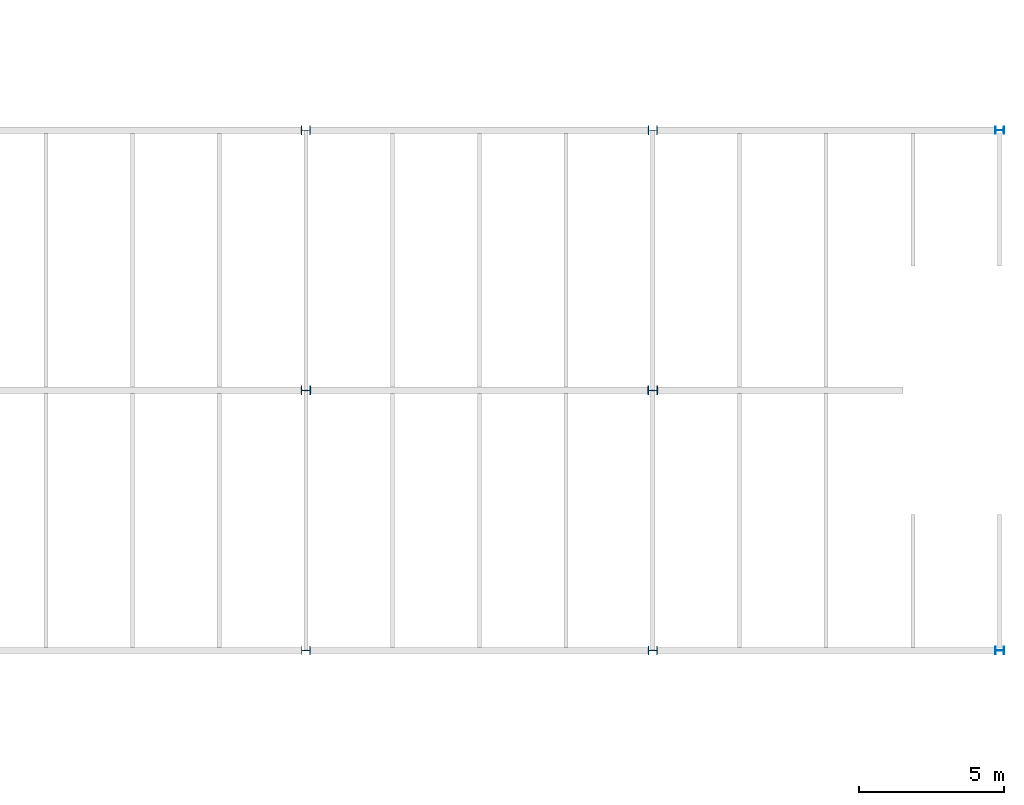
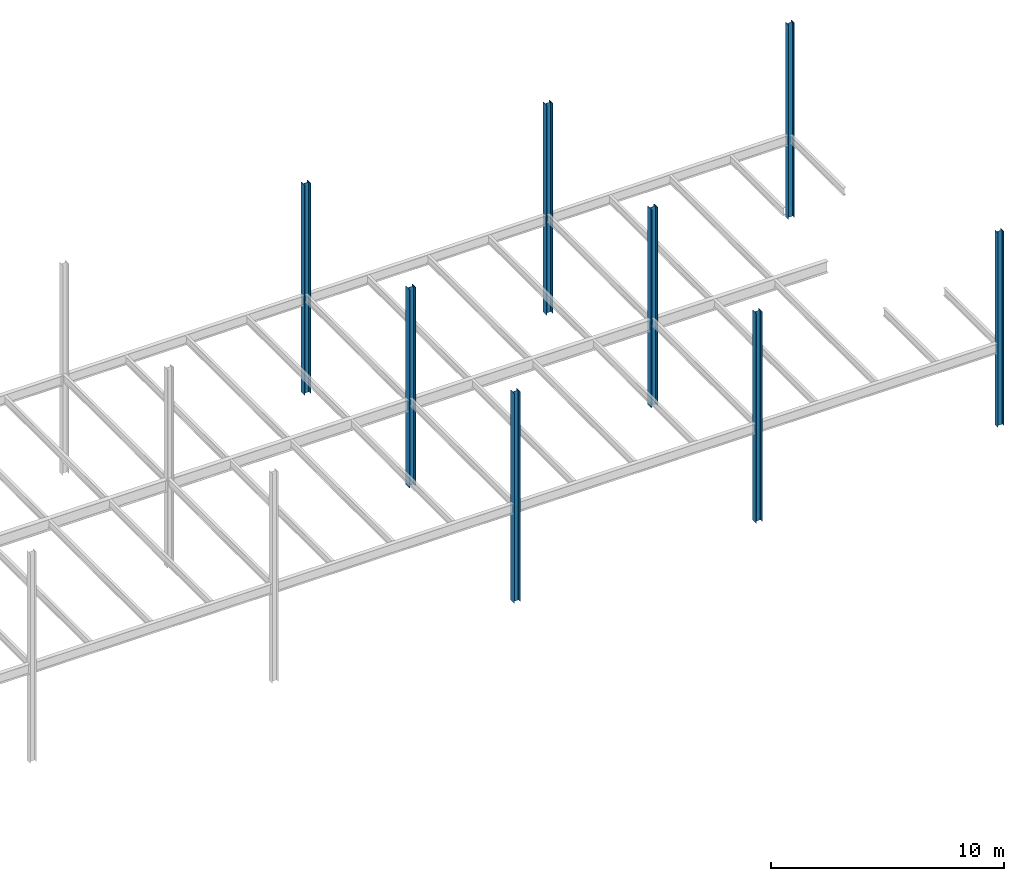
# One storey, part 9 of 19: 8 columns.
"""IFC2X3 building model written with IfcOpenShell, lengths in millimetres."""

from ifc_helpers import new_model, si_unit, origin, place, context, project, spatial, faceted_brep, material, element, save


model = new_model("IFC2X3")

# Units and contexts
context_of_model = context(None, 3, precision=1e-05, world=origin())
ifc_project = project(units=[si_unit("LENGTHUNIT", "METRE", prefix="MILLI")], contexts=[context_of_model])

# Building, storey
building = spatial("IfcBuilding", under=ifc_project, Name="Building", CompositionType="ELEMENT")
storey = spatial("IfcBuildingStorey", under=building, Name="FL2-FRM", CompositionType="ELEMENT")

# Columns
ifc_material_1 = material(Name="A992")
column_1_placement = place(None, origin())
element("IfcColumn", 1, at=column_1_placement, inside=storey, material=ifc_material_1, Name="Column332", context=context_of_model, shape_type="Brep", body=[
    faceted_brep([(84153.0, 8873.0, 0.0), (84153.0, 9127.0, 0.0), (84153.0, 9127.0, 10194.2), (84153.0, 8873.0, 10194.2), (84138.4, 9127.0, 0.0), (84138.4, 9127.0, 10194.2), (84138.4, 9019.6, 0.0), (84138.4, 9019.6, 10194.2), (84137.9, 9015.67, 0.0), (84137.9, 9015.67, 10194.2), (84136.4, 9012.0, 0.0), (84136.4, 9012.0, 10194.2), (84133.9, 9008.85, 0.0), (84133.9, 9008.85, 10194.2), (84130.8, 9006.44, 0.0), (84130.8, 9006.44, 10194.2), (84127.1, 9004.92, 0.0), (84127.1, 9004.92, 10194.2), (84123.2, 9004.4, 0.0), (84123.2, 9004.4, 10194.2), (83876.8, 9004.4, 0.0), (83876.8, 9004.4, 10194.2), (83872.9, 9004.92, 0.0), (83872.9, 9004.92, 10194.2), (83869.2, 9006.44, 0.0), (83869.2, 9006.44, 10194.2), (83866.1, 9008.85, 0.0), (83866.1, 9008.85, 10194.2), (83863.6, 9012.0, 0.0), (83863.6, 9012.0, 10194.2), (83862.1, 9015.67, 0.0), (83862.1, 9015.67, 10194.2), (83861.6, 9019.6, 0.0), (83861.6, 9019.6, 10194.2), (83861.6, 9127.0, 0.0), (83861.6, 9127.0, 10194.2), (83847.0, 9127.0, 0.0), (83847.0, 9127.0, 10194.2), (83847.0, 8873.0, 0.0), (83847.0, 8873.0, 10194.2), (83861.6, 8873.0, 0.0), (83861.6, 8873.0, 10194.2), (83861.6, 8980.4, 0.0), (83861.6, 8980.4, 10194.2), (83862.1, 8984.33, 0.0), (83862.1, 8984.33, 10194.2), (83863.6, 8988.0, 0.0), (83863.6, 8988.0, 10194.2), (83866.1, 8991.15, 0.0), (83866.1, 8991.15, 10194.2), (83869.2, 8993.56, 0.0), (83869.2, 8993.56, 10194.2), (83872.9, 8995.08, 0.0), (83872.9, 8995.08, 10194.2), (83876.8, 8995.6, 0.0), (83876.8, 8995.6, 10194.2), (84123.2, 8995.6, 0.0), (84123.2, 8995.6, 10194.2), (84127.1, 8995.08, 0.0), (84127.1, 8995.08, 10194.2), (84130.8, 8993.56, 0.0), (84130.8, 8993.56, 10194.2), (84133.9, 8991.15, 0.0), (84133.9, 8991.15, 10194.2), (84136.4, 8988.0, 0.0), (84136.4, 8988.0, 10194.2), (84137.9, 8984.33, 0.0), (84137.9, 8984.33, 10194.2), (84138.4, 8980.4, 0.0), (84138.4, 8980.4, 10194.2), (84138.4, 8873.0, 0.0), (84138.4, 8873.0, 10194.2)], [[[0, 1, 2, 3]], [[1, 4, 5, 2]], [[4, 6, 7, 5]], [[6, 8, 9, 7]], [[8, 10, 11, 9]], [[10, 12, 13, 11]], [[12, 14, 15, 13]], [[14, 16, 17, 15]], [[16, 18, 19, 17]], [[18, 20, 21, 19]], [[20, 22, 23, 21]], [[22, 24, 25, 23]], [[24, 26, 27, 25]], [[26, 28, 29, 27]], [[28, 30, 31, 29]], [[30, 32, 33, 31]], [[32, 34, 35, 33]], [[34, 36, 37, 35]], [[36, 38, 39, 37]], [[38, 40, 41, 39]], [[40, 42, 43, 41]], [[42, 44, 45, 43]], [[44, 46, 47, 45]], [[46, 48, 49, 47]], [[48, 50, 51, 49]], [[50, 52, 53, 51]], [[52, 54, 55, 53]], [[54, 56, 57, 55]], [[56, 58, 59, 57]], [[58, 60, 61, 59]], [[60, 62, 63, 61]], [[62, 64, 65, 63]], [[64, 66, 67, 65]], [[66, 68, 69, 67]], [[68, 70, 71, 69]], [[70, 0, 3, 71]], [[0, 70, 68, 66, 64, 62, 60, 58, 56, 54, 52, 50, 48, 46, 44, 42, 40, 38, 36, 34, 32, 30, 28, 26, 24, 22, 20, 18, 16, 14, 12, 10, 8, 6, 4, 1]], [[3, 2, 5, 7, 9, 11, 13, 15, 17, 19, 21, 23, 25, 27, 29, 31, 33, 35, 37, 39, 41, 43, 45, 47, 49, 51, 53, 55, 57, 59, 61, 63, 65, 67, 69, 71]]]),
])
ifc_material_2 = material(Name="A992")
column_2_placement = place(None, origin())
element("IfcColumn", 2, at=column_2_placement, inside=storey, material=ifc_material_2, Name="Column634", context=context_of_model, shape_type="Brep", body=[
    faceted_brep([(72157.0, 26846.5, -812.8), (72157.0, 27153.5, -812.8), (72157.0, 27153.5, 10194.2), (72157.0, 26846.5, 10194.2), (72138.3, 27153.5, -812.8), (72138.3, 27153.5, 10194.2), (72138.3, 27021.1, -812.8), (72138.3, 27021.1, 10194.2), (72137.8, 27017.2, -812.8), (72137.8, 27017.2, 10194.2), (72136.3, 27013.5, -812.8), (72136.3, 27013.5, 10194.2), (72133.8, 27010.4, -812.8), (72133.8, 27010.4, 10194.2), (72130.7, 27008.0, -812.8), (72130.7, 27008.0, 10194.2), (72127.0, 27006.5, -812.8), (72127.0, 27006.5, 10194.2), (72123.1, 27005.9, -812.8), (72123.1, 27005.9, 10194.2), (71876.9, 27005.9, -812.8), (71876.9, 27005.9, 10194.2), (71873.0, 27006.5, -812.8), (71873.0, 27006.5, 10194.2), (71869.3, 27008.0, -812.8), (71869.3, 27008.0, 10194.2), (71866.2, 27010.4, -812.8), (71866.2, 27010.4, 10194.2), (71863.7, 27013.5, -812.8), (71863.7, 27013.5, 10194.2), (71862.2, 27017.2, -812.8), (71862.2, 27017.2, 10194.2), (71861.7, 27021.1, -812.8), (71861.7, 27021.1, 10194.2), (71861.7, 27153.5, -812.8), (71861.7, 27153.5, 10194.2), (71843.0, 27153.5, -812.8), (71843.0, 27153.5, 10194.2), (71843.0, 26846.5, -812.8), (71843.0, 26846.5, 10194.2), (71861.7, 26846.5, -812.8), (71861.7, 26846.5, 10194.2), (71861.7, 26978.9, -812.8), (71861.7, 26978.9, 10194.2), (71862.2, 26982.8, -812.8), (71862.2, 26982.8, 10194.2), (71863.7, 26986.5, -812.8), (71863.7, 26986.5, 10194.2), (71866.2, 26989.6, -812.8), (71866.2, 26989.6, 10194.2), (71869.3, 26992.0, -812.8), (71869.3, 26992.0, 10194.2), (71873.0, 26993.5, -812.8), (71873.0, 26993.5, 10194.2), (71876.9, 26994.1, -812.8), (71876.9, 26994.1, 10194.2), (72123.1, 26994.1, -812.8), (72123.1, 26994.1, 10194.2), (72127.0, 26993.5, -812.8), (72127.0, 26993.5, 10194.2), (72130.7, 26992.0, -812.8), (72130.7, 26992.0, 10194.2), (72133.8, 26989.6, -812.8), (72133.8, 26989.6, 10194.2), (72136.3, 26986.5, -812.8), (72136.3, 26986.5, 10194.2), (72137.8, 26982.8, -812.8), (72137.8, 26982.8, 10194.2), (72138.3, 26978.9, -812.8), (72138.3, 26978.9, 10194.2), (72138.3, 26846.5, -812.8), (72138.3, 26846.5, 10194.2)], [[[0, 1, 2, 3]], [[1, 4, 5, 2]], [[4, 6, 7, 5]], [[6, 8, 9, 7]], [[8, 10, 11, 9]], [[10, 12, 13, 11]], [[12, 14, 15, 13]], [[14, 16, 17, 15]], [[16, 18, 19, 17]], [[18, 20, 21, 19]], [[20, 22, 23, 21]], [[22, 24, 25, 23]], [[24, 26, 27, 25]], [[26, 28, 29, 27]], [[28, 30, 31, 29]], [[30, 32, 33, 31]], [[32, 34, 35, 33]], [[34, 36, 37, 35]], [[36, 38, 39, 37]], [[38, 40, 41, 39]], [[40, 42, 43, 41]], [[42, 44, 45, 43]], [[44, 46, 47, 45]], [[46, 48, 49, 47]], [[48, 50, 51, 49]], [[50, 52, 53, 51]], [[52, 54, 55, 53]], [[54, 56, 57, 55]], [[56, 58, 59, 57]], [[58, 60, 61, 59]], [[60, 62, 63, 61]], [[62, 64, 65, 63]], [[64, 66, 67, 65]], [[66, 68, 69, 67]], [[68, 70, 71, 69]], [[70, 0, 3, 71]], [[0, 70, 68, 66, 64, 62, 60, 58, 56, 54, 52, 50, 48, 46, 44, 42, 40, 38, 36, 34, 32, 30, 28, 26, 24, 22, 20, 18, 16, 14, 12, 10, 8, 6, 4, 1]], [[3, 2, 5, 7, 9, 11, 13, 15, 17, 19, 21, 23, 25, 27, 29, 31, 33, 35, 37, 39, 41, 43, 45, 47, 49, 51, 53, 55, 57, 59, 61, 63, 65, 67, 69, 71]]]),
])
ifc_material_3 = material(Name="A992")
column_3_placement = place(None, origin())
element("IfcColumn", 3, at=column_3_placement, inside=storey, material=ifc_material_3, Name="Column635", context=context_of_model, shape_type="Brep", body=[
    faceted_brep([(60157.0, 26846.5, -812.8), (60157.0, 27153.5, -812.8), (60157.0, 27153.5, 10194.2), (60157.0, 26846.5, 10194.2), (60138.3, 27153.5, -812.8), (60138.3, 27153.5, 10194.2), (60138.3, 27021.1, -812.8), (60138.3, 27021.1, 10194.2), (60137.8, 27017.2, -812.8), (60137.8, 27017.2, 10194.2), (60136.3, 27013.5, -812.8), (60136.3, 27013.5, 10194.2), (60133.8, 27010.4, -812.8), (60133.8, 27010.4, 10194.2), (60130.7, 27008.0, -812.8), (60130.7, 27008.0, 10194.2), (60127.0, 27006.5, -812.8), (60127.0, 27006.5, 10194.2), (60123.1, 27005.9, -812.8), (60123.1, 27005.9, 10194.2), (59876.9, 27005.9, -812.8), (59876.9, 27005.9, 10194.2), (59873.0, 27006.5, -812.8), (59873.0, 27006.5, 10194.2), (59869.3, 27008.0, -812.8), (59869.3, 27008.0, 10194.2), (59866.2, 27010.4, -812.8), (59866.2, 27010.4, 10194.2), (59863.7, 27013.5, -812.8), (59863.7, 27013.5, 10194.2), (59862.2, 27017.2, -812.8), (59862.2, 27017.2, 10194.2), (59861.7, 27021.1, -812.8), (59861.7, 27021.1, 10194.2), (59861.7, 27153.5, -812.8), (59861.7, 27153.5, 10194.2), (59843.0, 27153.5, -812.8), (59843.0, 27153.5, 10194.2), (59843.0, 26846.5, -812.8), (59843.0, 26846.5, 10194.2), (59861.7, 26846.5, -812.8), (59861.7, 26846.5, 10194.2), (59861.7, 26978.9, -812.8), (59861.7, 26978.9, 10194.2), (59862.2, 26982.8, -812.8), (59862.2, 26982.8, 10194.2), (59863.7, 26986.5, -812.8), (59863.7, 26986.5, 10194.2), (59866.2, 26989.6, -812.8), (59866.2, 26989.6, 10194.2), (59869.3, 26992.0, -812.8), (59869.3, 26992.0, 10194.2), (59873.0, 26993.5, -812.8), (59873.0, 26993.5, 10194.2), (59876.9, 26994.1, -812.8), (59876.9, 26994.1, 10194.2), (60123.1, 26994.1, -812.8), (60123.1, 26994.1, 10194.2), (60127.0, 26993.5, -812.8), (60127.0, 26993.5, 10194.2), (60130.7, 26992.0, -812.8), (60130.7, 26992.0, 10194.2), (60133.8, 26989.6, -812.8), (60133.8, 26989.6, 10194.2), (60136.3, 26986.5, -812.8), (60136.3, 26986.5, 10194.2), (60137.8, 26982.8, -812.8), (60137.8, 26982.8, 10194.2), (60138.3, 26978.9, -812.8), (60138.3, 26978.9, 10194.2), (60138.3, 26846.5, -812.8), (60138.3, 26846.5, 10194.2)], [[[0, 1, 2, 3]], [[1, 4, 5, 2]], [[4, 6, 7, 5]], [[6, 8, 9, 7]], [[8, 10, 11, 9]], [[10, 12, 13, 11]], [[12, 14, 15, 13]], [[14, 16, 17, 15]], [[16, 18, 19, 17]], [[18, 20, 21, 19]], [[20, 22, 23, 21]], [[22, 24, 25, 23]], [[24, 26, 27, 25]], [[26, 28, 29, 27]], [[28, 30, 31, 29]], [[30, 32, 33, 31]], [[32, 34, 35, 33]], [[34, 36, 37, 35]], [[36, 38, 39, 37]], [[38, 40, 41, 39]], [[40, 42, 43, 41]], [[42, 44, 45, 43]], [[44, 46, 47, 45]], [[46, 48, 49, 47]], [[48, 50, 51, 49]], [[50, 52, 53, 51]], [[52, 54, 55, 53]], [[54, 56, 57, 55]], [[56, 58, 59, 57]], [[58, 60, 61, 59]], [[60, 62, 63, 61]], [[62, 64, 65, 63]], [[64, 66, 67, 65]], [[66, 68, 69, 67]], [[68, 70, 71, 69]], [[70, 0, 3, 71]], [[0, 70, 68, 66, 64, 62, 60, 58, 56, 54, 52, 50, 48, 46, 44, 42, 40, 38, 36, 34, 32, 30, 28, 26, 24, 22, 20, 18, 16, 14, 12, 10, 8, 6, 4, 1]], [[3, 2, 5, 7, 9, 11, 13, 15, 17, 19, 21, 23, 25, 27, 29, 31, 33, 35, 37, 39, 41, 43, 45, 47, 49, 51, 53, 55, 57, 59, 61, 63, 65, 67, 69, 71]]]),
])
ifc_material_4 = material(Name="A992")
column_4_placement = place(None, origin())
element("IfcColumn", 4, at=column_4_placement, inside=storey, material=ifc_material_4, Name="Column642", context=context_of_model, shape_type="Brep", body=[
    faceted_brep([(60166.5, 17843.5, -203.2), (60166.5, 18156.5, -203.2), (60166.5, 18156.5, 10194.2), (60166.5, 17843.5, 10194.2), (60138.4, 18156.5, -203.2), (60138.4, 18156.5, 10194.2), (60138.4, 18024.2, -203.2), (60138.4, 18024.2, 10194.2), (60137.9, 18020.3, -203.2), (60137.9, 18020.3, 10194.2), (60136.4, 18016.6, -203.2), (60136.4, 18016.6, 10194.2), (60133.9, 18013.5, -203.2), (60133.9, 18013.5, 10194.2), (60130.8, 18011.0, -203.2), (60130.8, 18011.0, 10194.2), (60127.1, 18009.5, -203.2), (60127.1, 18009.5, 10194.2), (60123.2, 18009.0, -203.2), (60123.2, 18009.0, 10194.2), (59876.8, 18009.0, -203.2), (59876.8, 18009.0, 10194.2), (59872.9, 18009.5, -203.2), (59872.9, 18009.5, 10194.2), (59869.2, 18011.0, -203.2), (59869.2, 18011.0, 10194.2), (59866.1, 18013.5, -203.2), (59866.1, 18013.5, 10194.2), (59863.6, 18016.6, -203.2), (59863.6, 18016.6, 10194.2), (59862.1, 18020.3, -203.2), (59862.1, 18020.3, 10194.2), (59861.6, 18024.2, -203.2), (59861.6, 18024.2, 10194.2), (59861.6, 18156.5, -203.2), (59861.6, 18156.5, 10194.2), (59833.5, 18156.5, -203.2), (59833.5, 18156.5, 10194.2), (59833.5, 17843.5, -203.2), (59833.5, 17843.5, 10194.2), (59861.6, 17843.5, -203.2), (59861.6, 17843.5, 10194.2), (59861.6, 17975.8, -203.2), (59861.6, 17975.8, 10194.2), (59862.1, 17979.7, -203.2), (59862.1, 17979.7, 10194.2), (59863.6, 17983.4, -203.2), (59863.6, 17983.4, 10194.2), (59866.1, 17986.5, -203.2), (59866.1, 17986.5, 10194.2), (59869.2, 17989.0, -203.2), (59869.2, 17989.0, 10194.2), (59872.9, 17990.5, -203.2), (59872.9, 17990.5, 10194.2), (59876.8, 17991.0, -203.2), (59876.8, 17991.0, 10194.2), (60123.2, 17991.0, -203.2), (60123.2, 17991.0, 10194.2), (60127.1, 17990.5, -203.2), (60127.1, 17990.5, 10194.2), (60130.8, 17989.0, -203.2), (60130.8, 17989.0, 10194.2), (60133.9, 17986.5, -203.2), (60133.9, 17986.5, 10194.2), (60136.4, 17983.4, -203.2), (60136.4, 17983.4, 10194.2), (60137.9, 17979.7, -203.2), (60137.9, 17979.7, 10194.2), (60138.4, 17975.8, -203.2), (60138.4, 17975.8, 10194.2), (60138.4, 17843.5, -203.2), (60138.4, 17843.5, 10194.2)], [[[0, 1, 2, 3]], [[1, 4, 5, 2]], [[4, 6, 7, 5]], [[6, 8, 9, 7]], [[8, 10, 11, 9]], [[10, 12, 13, 11]], [[12, 14, 15, 13]], [[14, 16, 17, 15]], [[16, 18, 19, 17]], [[18, 20, 21, 19]], [[20, 22, 23, 21]], [[22, 24, 25, 23]], [[24, 26, 27, 25]], [[26, 28, 29, 27]], [[28, 30, 31, 29]], [[30, 32, 33, 31]], [[32, 34, 35, 33]], [[34, 36, 37, 35]], [[36, 38, 39, 37]], [[38, 40, 41, 39]], [[40, 42, 43, 41]], [[42, 44, 45, 43]], [[44, 46, 47, 45]], [[46, 48, 49, 47]], [[48, 50, 51, 49]], [[50, 52, 53, 51]], [[52, 54, 55, 53]], [[54, 56, 57, 55]], [[56, 58, 59, 57]], [[58, 60, 61, 59]], [[60, 62, 63, 61]], [[62, 64, 65, 63]], [[64, 66, 67, 65]], [[66, 68, 69, 67]], [[68, 70, 71, 69]], [[70, 0, 3, 71]], [[0, 70, 68, 66, 64, 62, 60, 58, 56, 54, 52, 50, 48, 46, 44, 42, 40, 38, 36, 34, 32, 30, 28, 26, 24, 22, 20, 18, 16, 14, 12, 10, 8, 6, 4, 1]], [[3, 2, 5, 7, 9, 11, 13, 15, 17, 19, 21, 23, 25, 27, 29, 31, 33, 35, 37, 39, 41, 43, 45, 47, 49, 51, 53, 55, 57, 59, 61, 63, 65, 67, 69, 71]]]),
])
ifc_material_5 = material(Name="A992")
column_5_placement = place(None, origin())
element("IfcColumn", 5, at=column_5_placement, inside=storey, material=ifc_material_5, Name="Column643", context=context_of_model, shape_type="Brep", body=[
    faceted_brep([(72166.5, 17843.5, -203.2), (72166.5, 18156.5, -203.2), (72166.5, 18156.5, 10194.2), (72166.5, 17843.5, 10194.2), (72138.4, 18156.5, -203.2), (72138.4, 18156.5, 10194.2), (72138.4, 18024.2, -203.2), (72138.4, 18024.2, 10194.2), (72137.9, 18020.3, -203.2), (72137.9, 18020.3, 10194.2), (72136.4, 18016.6, -203.2), (72136.4, 18016.6, 10194.2), (72133.9, 18013.5, -203.2), (72133.9, 18013.5, 10194.2), (72130.8, 18011.0, -203.2), (72130.8, 18011.0, 10194.2), (72127.1, 18009.5, -203.2), (72127.1, 18009.5, 10194.2), (72123.2, 18009.0, -203.2), (72123.2, 18009.0, 10194.2), (71876.8, 18009.0, -203.2), (71876.8, 18009.0, 10194.2), (71872.9, 18009.5, -203.2), (71872.9, 18009.5, 10194.2), (71869.2, 18011.0, -203.2), (71869.2, 18011.0, 10194.2), (71866.1, 18013.5, -203.2), (71866.1, 18013.5, 10194.2), (71863.6, 18016.6, -203.2), (71863.6, 18016.6, 10194.2), (71862.1, 18020.3, -203.2), (71862.1, 18020.3, 10194.2), (71861.6, 18024.2, -203.2), (71861.6, 18024.2, 10194.2), (71861.6, 18156.5, -203.2), (71861.6, 18156.5, 10194.2), (71833.5, 18156.5, -203.2), (71833.5, 18156.5, 10194.2), (71833.5, 17843.5, -203.2), (71833.5, 17843.5, 10194.2), (71861.6, 17843.5, -203.2), (71861.6, 17843.5, 10194.2), (71861.6, 17975.8, -203.2), (71861.6, 17975.8, 10194.2), (71862.1, 17979.7, -203.2), (71862.1, 17979.7, 10194.2), (71863.6, 17983.4, -203.2), (71863.6, 17983.4, 10194.2), (71866.1, 17986.5, -203.2), (71866.1, 17986.5, 10194.2), (71869.2, 17989.0, -203.2), (71869.2, 17989.0, 10194.2), (71872.9, 17990.5, -203.2), (71872.9, 17990.5, 10194.2), (71876.8, 17991.0, -203.2), (71876.8, 17991.0, 10194.2), (72123.2, 17991.0, -203.2), (72123.2, 17991.0, 10194.2), (72127.1, 17990.5, -203.2), (72127.1, 17990.5, 10194.2), (72130.8, 17989.0, -203.2), (72130.8, 17989.0, 10194.2), (72133.9, 17986.5, -203.2), (72133.9, 17986.5, 10194.2), (72136.4, 17983.4, -203.2), (72136.4, 17983.4, 10194.2), (72137.9, 17979.7, -203.2), (72137.9, 17979.7, 10194.2), (72138.4, 17975.8, -203.2), (72138.4, 17975.8, 10194.2), (72138.4, 17843.5, -203.2), (72138.4, 17843.5, 10194.2)], [[[0, 1, 2, 3]], [[1, 4, 5, 2]], [[4, 6, 7, 5]], [[6, 8, 9, 7]], [[8, 10, 11, 9]], [[10, 12, 13, 11]], [[12, 14, 15, 13]], [[14, 16, 17, 15]], [[16, 18, 19, 17]], [[18, 20, 21, 19]], [[20, 22, 23, 21]], [[22, 24, 25, 23]], [[24, 26, 27, 25]], [[26, 28, 29, 27]], [[28, 30, 31, 29]], [[30, 32, 33, 31]], [[32, 34, 35, 33]], [[34, 36, 37, 35]], [[36, 38, 39, 37]], [[38, 40, 41, 39]], [[40, 42, 43, 41]], [[42, 44, 45, 43]], [[44, 46, 47, 45]], [[46, 48, 49, 47]], [[48, 50, 51, 49]], [[50, 52, 53, 51]], [[52, 54, 55, 53]], [[54, 56, 57, 55]], [[56, 58, 59, 57]], [[58, 60, 61, 59]], [[60, 62, 63, 61]], [[62, 64, 65, 63]], [[64, 66, 67, 65]], [[66, 68, 69, 67]], [[68, 70, 71, 69]], [[70, 0, 3, 71]], [[0, 70, 68, 66, 64, 62, 60, 58, 56, 54, 52, 50, 48, 46, 44, 42, 40, 38, 36, 34, 32, 30, 28, 26, 24, 22, 20, 18, 16, 14, 12, 10, 8, 6, 4, 1]], [[3, 2, 5, 7, 9, 11, 13, 15, 17, 19, 21, 23, 25, 27, 29, 31, 33, 35, 37, 39, 41, 43, 45, 47, 49, 51, 53, 55, 57, 59, 61, 63, 65, 67, 69, 71]]]),
])
ifc_material_6 = material(Name="A992")
column_6_placement = place(None, origin())
element("IfcColumn", 6, at=column_6_placement, inside=storey, material=ifc_material_6, Name="Column647", context=context_of_model, shape_type="Brep", body=[
    faceted_brep([(60154.0, 8847.5, -812.8), (60154.0, 9152.5, -812.8), (60154.0, 9152.5, 10194.2), (60154.0, 8847.5, 10194.2), (60138.6, 9152.5, -812.8), (60138.6, 9152.5, 10194.2), (60138.6, 9020.15, -812.8), (60138.6, 9020.15, 10194.2), (60138.1, 9016.22, -812.8), (60138.1, 9016.22, 10194.2), (60136.6, 9012.55, -812.8), (60136.6, 9012.55, 10194.2), (60134.1, 9009.4, -812.8), (60134.1, 9009.4, 10194.2), (60131.0, 9006.99, -812.8), (60131.0, 9006.99, 10194.2), (60127.3, 9005.47, -812.8), (60127.3, 9005.47, 10194.2), (60123.4, 9004.95, -812.8), (60123.4, 9004.95, 10194.2), (59876.6, 9004.95, -812.8), (59876.6, 9004.95, 10194.2), (59872.7, 9005.47, -812.8), (59872.7, 9005.47, 10194.2), (59869.0, 9006.99, -812.8), (59869.0, 9006.99, 10194.2), (59865.9, 9009.4, -812.8), (59865.9, 9009.4, 10194.2), (59863.4, 9012.55, -812.8), (59863.4, 9012.55, 10194.2), (59861.9, 9016.22, -812.8), (59861.9, 9016.22, 10194.2), (59861.4, 9020.15, -812.8), (59861.4, 9020.15, 10194.2), (59861.4, 9152.5, -812.8), (59861.4, 9152.5, 10194.2), (59846.0, 9152.5, -812.8), (59846.0, 9152.5, 10194.2), (59846.0, 8847.5, -812.8), (59846.0, 8847.5, 10194.2), (59861.4, 8847.5, -812.8), (59861.4, 8847.5, 10194.2), (59861.4, 8979.85, -812.8), (59861.4, 8979.85, 10194.2), (59861.9, 8983.78, -812.8), (59861.9, 8983.78, 10194.2), (59863.4, 8987.45, -812.8), (59863.4, 8987.45, 10194.2), (59865.9, 8990.6, -812.8), (59865.9, 8990.6, 10194.2), (59869.0, 8993.01, -812.8), (59869.0, 8993.01, 10194.2), (59872.7, 8994.53, -812.8), (59872.7, 8994.53, 10194.2), (59876.6, 8995.05, -812.8), (59876.6, 8995.05, 10194.2), (60123.4, 8995.05, -812.8), (60123.4, 8995.05, 10194.2), (60127.3, 8994.53, -812.8), (60127.3, 8994.53, 10194.2), (60131.0, 8993.01, -812.8), (60131.0, 8993.01, 10194.2), (60134.1, 8990.6, -812.8), (60134.1, 8990.6, 10194.2), (60136.6, 8987.45, -812.8), (60136.6, 8987.45, 10194.2), (60138.1, 8983.78, -812.8), (60138.1, 8983.78, 10194.2), (60138.6, 8979.85, -812.8), (60138.6, 8979.85, 10194.2), (60138.6, 8847.5, -812.8), (60138.6, 8847.5, 10194.2)], [[[0, 1, 2, 3]], [[1, 4, 5, 2]], [[4, 6, 7, 5]], [[6, 8, 9, 7]], [[8, 10, 11, 9]], [[10, 12, 13, 11]], [[12, 14, 15, 13]], [[14, 16, 17, 15]], [[16, 18, 19, 17]], [[18, 20, 21, 19]], [[20, 22, 23, 21]], [[22, 24, 25, 23]], [[24, 26, 27, 25]], [[26, 28, 29, 27]], [[28, 30, 31, 29]], [[30, 32, 33, 31]], [[32, 34, 35, 33]], [[34, 36, 37, 35]], [[36, 38, 39, 37]], [[38, 40, 41, 39]], [[40, 42, 43, 41]], [[42, 44, 45, 43]], [[44, 46, 47, 45]], [[46, 48, 49, 47]], [[48, 50, 51, 49]], [[50, 52, 53, 51]], [[52, 54, 55, 53]], [[54, 56, 57, 55]], [[56, 58, 59, 57]], [[58, 60, 61, 59]], [[60, 62, 63, 61]], [[62, 64, 65, 63]], [[64, 66, 67, 65]], [[66, 68, 69, 67]], [[68, 70, 71, 69]], [[70, 0, 3, 71]], [[0, 70, 68, 66, 64, 62, 60, 58, 56, 54, 52, 50, 48, 46, 44, 42, 40, 38, 36, 34, 32, 30, 28, 26, 24, 22, 20, 18, 16, 14, 12, 10, 8, 6, 4, 1]], [[3, 2, 5, 7, 9, 11, 13, 15, 17, 19, 21, 23, 25, 27, 29, 31, 33, 35, 37, 39, 41, 43, 45, 47, 49, 51, 53, 55, 57, 59, 61, 63, 65, 67, 69, 71]]]),
])
ifc_material_7 = material(Name="A992")
column_7_placement = place(None, origin())
element("IfcColumn", 7, at=column_7_placement, inside=storey, material=ifc_material_7, Name="Column648", context=context_of_model, shape_type="Brep", body=[
    faceted_brep([(72154.0, 8847.5, -812.8), (72154.0, 9152.5, -812.8), (72154.0, 9152.5, 10194.2), (72154.0, 8847.5, 10194.2), (72138.6, 9152.5, -812.8), (72138.6, 9152.5, 10194.2), (72138.6, 9020.15, -812.8), (72138.6, 9020.15, 10194.2), (72138.1, 9016.22, -812.8), (72138.1, 9016.22, 10194.2), (72136.6, 9012.55, -812.8), (72136.6, 9012.55, 10194.2), (72134.1, 9009.4, -812.8), (72134.1, 9009.4, 10194.2), (72131.0, 9006.99, -812.8), (72131.0, 9006.99, 10194.2), (72127.3, 9005.47, -812.8), (72127.3, 9005.47, 10194.2), (72123.4, 9004.95, -812.8), (72123.4, 9004.95, 10194.2), (71876.6, 9004.95, -812.8), (71876.6, 9004.95, 10194.2), (71872.7, 9005.47, -812.8), (71872.7, 9005.47, 10194.2), (71869.0, 9006.99, -812.8), (71869.0, 9006.99, 10194.2), (71865.9, 9009.4, -812.8), (71865.9, 9009.4, 10194.2), (71863.4, 9012.55, -812.8), (71863.4, 9012.55, 10194.2), (71861.9, 9016.22, -812.8), (71861.9, 9016.22, 10194.2), (71861.4, 9020.15, -812.8), (71861.4, 9020.15, 10194.2), (71861.4, 9152.5, -812.8), (71861.4, 9152.5, 10194.2), (71846.0, 9152.5, -812.8), (71846.0, 9152.5, 10194.2), (71846.0, 8847.5, -812.8), (71846.0, 8847.5, 10194.2), (71861.4, 8847.5, -812.8), (71861.4, 8847.5, 10194.2), (71861.4, 8979.85, -812.8), (71861.4, 8979.85, 10194.2), (71861.9, 8983.78, -812.8), (71861.9, 8983.78, 10194.2), (71863.4, 8987.45, -812.8), (71863.4, 8987.45, 10194.2), (71865.9, 8990.6, -812.8), (71865.9, 8990.6, 10194.2), (71869.0, 8993.01, -812.8), (71869.0, 8993.01, 10194.2), (71872.7, 8994.53, -812.8), (71872.7, 8994.53, 10194.2), (71876.6, 8995.05, -812.8), (71876.6, 8995.05, 10194.2), (72123.4, 8995.05, -812.8), (72123.4, 8995.05, 10194.2), (72127.3, 8994.53, -812.8), (72127.3, 8994.53, 10194.2), (72131.0, 8993.01, -812.8), (72131.0, 8993.01, 10194.2), (72134.1, 8990.6, -812.8), (72134.1, 8990.6, 10194.2), (72136.6, 8987.45, -812.8), (72136.6, 8987.45, 10194.2), (72138.1, 8983.78, -812.8), (72138.1, 8983.78, 10194.2), (72138.6, 8979.85, -812.8), (72138.6, 8979.85, 10194.2), (72138.6, 8847.5, -812.8), (72138.6, 8847.5, 10194.2)], [[[0, 1, 2, 3]], [[1, 4, 5, 2]], [[4, 6, 7, 5]], [[6, 8, 9, 7]], [[8, 10, 11, 9]], [[10, 12, 13, 11]], [[12, 14, 15, 13]], [[14, 16, 17, 15]], [[16, 18, 19, 17]], [[18, 20, 21, 19]], [[20, 22, 23, 21]], [[22, 24, 25, 23]], [[24, 26, 27, 25]], [[26, 28, 29, 27]], [[28, 30, 31, 29]], [[30, 32, 33, 31]], [[32, 34, 35, 33]], [[34, 36, 37, 35]], [[36, 38, 39, 37]], [[38, 40, 41, 39]], [[40, 42, 43, 41]], [[42, 44, 45, 43]], [[44, 46, 47, 45]], [[46, 48, 49, 47]], [[48, 50, 51, 49]], [[50, 52, 53, 51]], [[52, 54, 55, 53]], [[54, 56, 57, 55]], [[56, 58, 59, 57]], [[58, 60, 61, 59]], [[60, 62, 63, 61]], [[62, 64, 65, 63]], [[64, 66, 67, 65]], [[66, 68, 69, 67]], [[68, 70, 71, 69]], [[70, 0, 3, 71]], [[0, 70, 68, 66, 64, 62, 60, 58, 56, 54, 52, 50, 48, 46, 44, 42, 40, 38, 36, 34, 32, 30, 28, 26, 24, 22, 20, 18, 16, 14, 12, 10, 8, 6, 4, 1]], [[3, 2, 5, 7, 9, 11, 13, 15, 17, 19, 21, 23, 25, 27, 29, 31, 33, 35, 37, 39, 41, 43, 45, 47, 49, 51, 53, 55, 57, 59, 61, 63, 65, 67, 69, 71]]]),
])
ifc_material_8 = material(Name="A992")
column_8_placement = place(None, origin())
element("IfcColumn", 8, at=column_8_placement, inside=storey, material=ifc_material_8, Name="Column656", context=context_of_model, shape_type="Brep", body=[
    faceted_brep([(84153.0, 26873.0, -1.3278e-13), (84153.0, 27127.0, 1.3278e-13), (84153.0, 27127.0, 10194.2), (84153.0, 26873.0, 10194.2), (84138.4, 27127.0, 1.3278e-13), (84138.4, 27127.0, 10194.2), (84138.4, 27019.6, 2.0492e-14), (84138.4, 27019.6, 10194.2), (84137.9, 27015.7, 1.63789e-14), (84137.9, 27015.7, 10194.2), (84136.4, 27012.0, 1.25461e-14), (84136.4, 27012.0, 10194.2), (84133.9, 27008.9, 9.25483e-15), (84133.9, 27008.9, 10194.2), (84130.8, 27006.4, 6.72934e-15), (84130.8, 27006.4, 10194.2), (84127.1, 27004.9, 5.14174e-15), (84127.1, 27004.9, 10194.2), (84123.2, 27004.4, 4.60025e-15), (84123.2, 27004.4, 10194.2), (83876.8, 27004.4, 4.60025e-15), (83876.8, 27004.4, 10194.2), (83872.9, 27004.9, 5.14174e-15), (83872.9, 27004.9, 10194.2), (83869.2, 27006.4, 6.72934e-15), (83869.2, 27006.4, 10194.2), (83866.1, 27008.9, 9.25483e-15), (83866.1, 27008.9, 10194.2), (83863.6, 27012.0, 1.25461e-14), (83863.6, 27012.0, 10194.2), (83862.1, 27015.7, 1.63789e-14), (83862.1, 27015.7, 10194.2), (83861.6, 27019.6, 2.0492e-14), (83861.6, 27019.6, 10194.2), (83861.6, 27127.0, 1.3278e-13), (83861.6, 27127.0, 10194.2), (83847.0, 27127.0, 1.3278e-13), (83847.0, 27127.0, 10194.2), (83847.0, 26873.0, -1.3278e-13), (83847.0, 26873.0, 10194.2), (83861.6, 26873.0, -1.3278e-13), (83861.6, 26873.0, 10194.2), (83861.6, 26980.4, -2.0492e-14), (83861.6, 26980.4, 10194.2), (83862.1, 26984.3, -1.63789e-14), (83862.1, 26984.3, 10194.2), (83863.6, 26988.0, -1.25461e-14), (83863.6, 26988.0, 10194.2), (83866.1, 26991.1, -9.25483e-15), (83866.1, 26991.1, 10194.2), (83869.2, 26993.6, -6.72934e-15), (83869.2, 26993.6, 10194.2), (83872.9, 26995.1, -5.14174e-15), (83872.9, 26995.1, 10194.2), (83876.8, 26995.6, -4.60025e-15), (83876.8, 26995.6, 10194.2), (84123.2, 26995.6, -4.60025e-15), (84123.2, 26995.6, 10194.2), (84127.1, 26995.1, -5.14174e-15), (84127.1, 26995.1, 10194.2), (84130.8, 26993.6, -6.72934e-15), (84130.8, 26993.6, 10194.2), (84133.9, 26991.1, -9.25483e-15), (84133.9, 26991.1, 10194.2), (84136.4, 26988.0, -1.25461e-14), (84136.4, 26988.0, 10194.2), (84137.9, 26984.3, -1.63789e-14), (84137.9, 26984.3, 10194.2), (84138.4, 26980.4, -2.0492e-14), (84138.4, 26980.4, 10194.2), (84138.4, 26873.0, -1.3278e-13), (84138.4, 26873.0, 10194.2)], [[[0, 1, 2, 3]], [[1, 4, 5, 2]], [[4, 6, 7, 5]], [[6, 8, 9, 7]], [[8, 10, 11, 9]], [[10, 12, 13, 11]], [[12, 14, 15, 13]], [[14, 16, 17, 15]], [[16, 18, 19, 17]], [[18, 20, 21, 19]], [[20, 22, 23, 21]], [[22, 24, 25, 23]], [[24, 26, 27, 25]], [[26, 28, 29, 27]], [[28, 30, 31, 29]], [[30, 32, 33, 31]], [[32, 34, 35, 33]], [[34, 36, 37, 35]], [[36, 38, 39, 37]], [[38, 40, 41, 39]], [[40, 42, 43, 41]], [[42, 44, 45, 43]], [[44, 46, 47, 45]], [[46, 48, 49, 47]], [[48, 50, 51, 49]], [[50, 52, 53, 51]], [[52, 54, 55, 53]], [[54, 56, 57, 55]], [[56, 58, 59, 57]], [[58, 60, 61, 59]], [[60, 62, 63, 61]], [[62, 64, 65, 63]], [[64, 66, 67, 65]], [[66, 68, 69, 67]], [[68, 70, 71, 69]], [[70, 0, 3, 71]], [[0, 70, 68, 66, 64, 62, 60, 58, 56, 54, 52, 50, 48, 46, 44, 42, 40, 38, 36, 34, 32, 30, 28, 26, 24, 22, 20, 18, 16, 14, 12, 10, 8, 6, 4, 1]], [[3, 2, 5, 7, 9, 11, 13, 15, 17, 19, 21, 23, 25, 27, 29, 31, 33, 35, 37, 39, 41, 43, 45, 47, 49, 51, 53, 55, 57, 59, 61, 63, 65, 67, 69, 71]]]),
])

save(model, "model.ifc")
